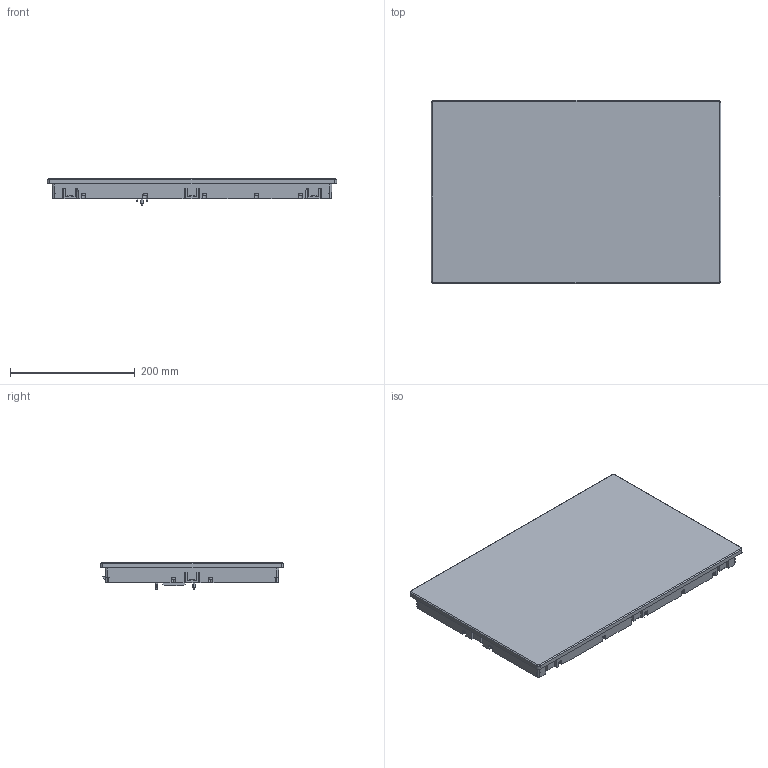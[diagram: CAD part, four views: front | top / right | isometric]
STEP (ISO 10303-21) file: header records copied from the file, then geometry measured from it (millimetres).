
FILE_DESCRIPTION (( 'STEP AP203' ), '1' );
FILE_NAME ('20200221_19w_niji_display_asm.STEP', '2020-04-01T15:12:19', ( 'Caca' ), ( '' ), 'SwSTEP 2.0', 'SolidWorks 2017', '' );
FILE_SCHEMA (( 'CONFIG_CONTROL_DESIGN' ));
Length unit declared in the file: millimetre
Products named in the file (1): 20200221_19w_niji_display_asm
Bounding box: 463.6 x 293.6 x 42 mm (x, y, z)
Volume: 4048204.8 mm3; surface area: 327813.1 mm2
Topology: 1 solids, 1 shells, 544 faces, 1408 edges, 932 vertices
Faces by surface type: plane 329, cylinder 122, cone 93
Entity records: 16796 total; most frequent: CARTESIAN_POINT 3026, DIRECTION 2895, ORIENTED_EDGE 2816, EDGE_CURVE 1408, AXIS2_PLACEMENT_3D 968, VECTOR 959, LINE 959, VERTEX_POINT 932
